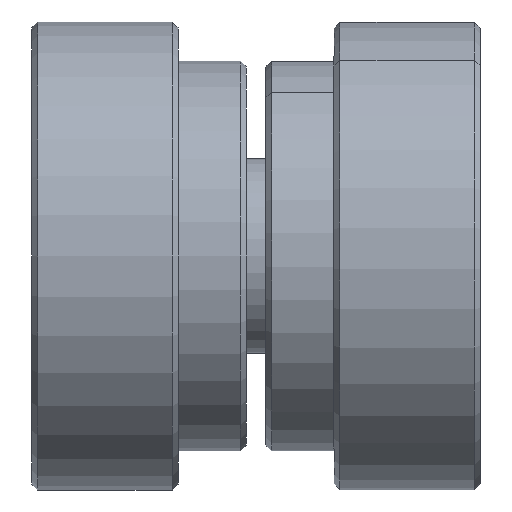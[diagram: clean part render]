
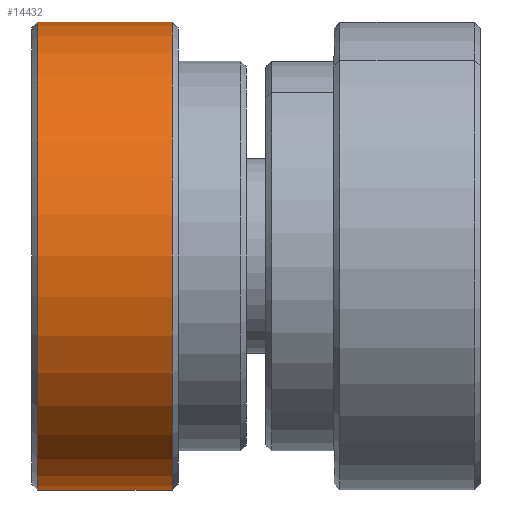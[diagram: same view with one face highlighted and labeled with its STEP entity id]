
A CAD part, left-side view. The second image highlights one B-rep face of the part: STEP entity #14432.
In plain terms, the highlighted cylindrical face has radius 12 mm (diameter 24 mm), a partial arc.
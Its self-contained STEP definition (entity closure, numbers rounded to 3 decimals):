
#873 = CYLINDRICAL_SURFACE ( 'NONE', #8724, 12. ) ;
#900 = CARTESIAN_POINT ( 'NONE',  ( 0., -7.5, -12. ) ) ;
#926 = CARTESIAN_POINT ( 'NONE',  ( 0., -7.2, 0. ) ) ;
#1018 = CARTESIAN_POINT ( 'NONE',  ( 0., -0.3, 0. ) ) ;
#1380 = VERTEX_POINT ( 'NONE', #6110 ) ;
#1732 = CARTESIAN_POINT ( 'NONE',  ( 0., -7.5, 12. ) ) ;
#1955 = ORIENTED_EDGE ( 'NONE', *, *, #2517, .T. ) ;
#2517 = EDGE_CURVE ( 'NONE', #1380, #8638, #12489, .T. ) ;
#3817 = AXIS2_PLACEMENT_3D ( 'NONE', #926, #18674, #18204 ) ;
#4325 = AXIS2_PLACEMENT_3D ( 'NONE', #1018, #20506, #15421 ) ;
#4603 = DIRECTION ( 'NONE',  ( 0., 0., 1. ) ) ;
#5058 = VERTEX_POINT ( 'NONE', #10571 ) ;
#5989 = VECTOR ( 'NONE', #15910, 1000. ) ;
#6110 = CARTESIAN_POINT ( 'NONE',  ( 0., -0.3, 12. ) ) ;
#6871 = LINE ( 'NONE', #1732, #5989 ) ;
#7940 = EDGE_LOOP ( 'NONE', ( #20968, #18134, #16807, #1955 ) ) ;
#8428 = CARTESIAN_POINT ( 'NONE',  ( 0., -0.3, -12. ) ) ;
#8638 = VERTEX_POINT ( 'NONE', #8428 ) ;
#8724 = AXIS2_PLACEMENT_3D ( 'NONE', #11579, #16891, #4603 ) ;
#8945 = EDGE_CURVE ( 'NONE', #5058, #1380, #6871, .T. ) ;
#9537 = LINE ( 'NONE', #900, #21980 ) ;
#9858 = FACE_OUTER_BOUND ( 'NONE', #7940, .T. ) ;
#10571 = CARTESIAN_POINT ( 'NONE',  ( 0., -7.2, 12. ) ) ;
#11579 = CARTESIAN_POINT ( 'NONE',  ( 0., -7.5, 0. ) ) ;
#12489 = CIRCLE ( 'NONE', #4325, 12. ) ;
#13215 = EDGE_CURVE ( 'NONE', #15187, #5058, #22375, .T. ) ;
#13644 = EDGE_CURVE ( 'NONE', #15187, #8638, #9537, .T. ) ;
#13663 = CARTESIAN_POINT ( 'NONE',  ( 0., -7.2, -12. ) ) ;
#14432 = ADVANCED_FACE ( 'NONE', ( #9858 ), #873, .T. ) ;
#15187 = VERTEX_POINT ( 'NONE', #13663 ) ;
#15421 = DIRECTION ( 'NONE',  ( 0., 0., 1. ) ) ;
#15910 = DIRECTION ( 'NONE',  ( 0., 1., 0. ) ) ;
#16807 = ORIENTED_EDGE ( 'NONE', *, *, #8945, .T. ) ;
#16891 = DIRECTION ( 'NONE',  ( 0., 1., 0. ) ) ;
#18134 = ORIENTED_EDGE ( 'NONE', *, *, #13215, .T. ) ;
#18180 = DIRECTION ( 'NONE',  ( 0., 1., 0. ) ) ;
#18204 = DIRECTION ( 'NONE',  ( 0., 0., 1. ) ) ;
#18674 = DIRECTION ( 'NONE',  ( 0., 1., 0. ) ) ;
#20506 = DIRECTION ( 'NONE',  ( 0., -1., 0. ) ) ;
#20968 = ORIENTED_EDGE ( 'NONE', *, *, #13644, .F. ) ;
#21980 = VECTOR ( 'NONE', #18180, 1000. ) ;
#22375 = CIRCLE ( 'NONE', #3817, 12. ) ;
